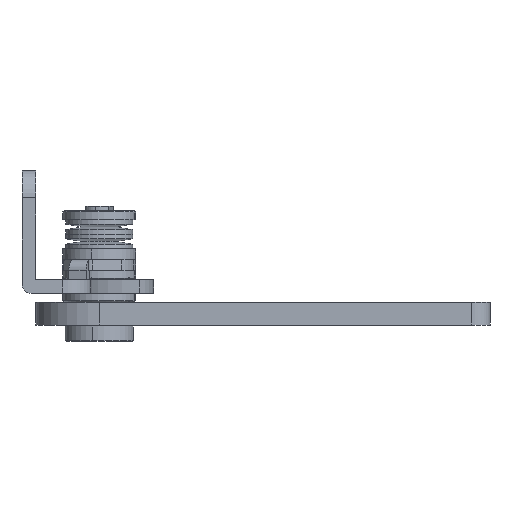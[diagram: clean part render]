
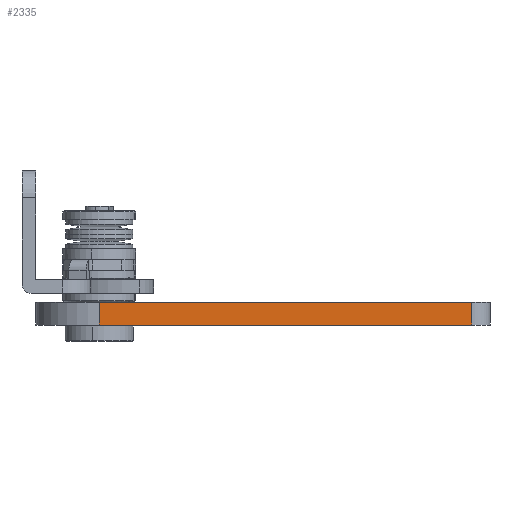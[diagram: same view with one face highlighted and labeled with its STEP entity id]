
A CAD part, left-side view. The second image highlights one B-rep face of the part: STEP entity #2335.
In plain terms, the highlighted planar face has unit normal (-1, 0, 0) as drawn and (1, 0, 0) by its records, which use the part's own axes.
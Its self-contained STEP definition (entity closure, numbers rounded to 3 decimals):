
#341 = ORIENTED_EDGE ( 'NONE', *, *, #7293, .T. ) ;
#583 = PLANE ( 'NONE',  #7472 ) ;
#1395 = LINE ( 'NONE', #14132, #14620 ) ;
#1822 = VERTEX_POINT ( 'NONE', #7103 ) ;
#1832 = DIRECTION ( 'NONE',  ( -1., 0., 0. ) ) ;
#2335 = ADVANCED_FACE ( 'NONE', ( #12972 ), #583, .F. ) ;
#3076 = DIRECTION ( 'NONE',  ( 0., 0., -1. ) ) ;
#3279 = VECTOR ( 'NONE', #9722, 1000. ) ;
#4618 = CARTESIAN_POINT ( 'NONE',  ( 14., 2., 2.5 ) ) ;
#5116 = CARTESIAN_POINT ( 'NONE',  ( 14., 2., 0. ) ) ;
#5676 = EDGE_CURVE ( 'NONE', #16001, #1822, #6314, .T. ) ;
#5856 = VECTOR ( 'NONE', #7081, 1000. ) ;
#6150 = ORIENTED_EDGE ( 'NONE', *, *, #9887, .F. ) ;
#6314 = LINE ( 'NONE', #4618, #3279 ) ;
#7081 = DIRECTION ( 'NONE',  ( 0., -1., 0. ) ) ;
#7103 = CARTESIAN_POINT ( 'NONE',  ( 14., 2., 2.5 ) ) ;
#7293 = EDGE_CURVE ( 'NONE', #16144, #1822, #15661, .T. ) ;
#7472 = AXIS2_PLACEMENT_3D ( 'NONE', #12051, #1832, #10827 ) ;
#7998 = VECTOR ( 'NONE', #3076, 1000. ) ;
#8696 = EDGE_CURVE ( 'NONE', #9391, #16001, #1395, .T. ) ;
#9021 = DIRECTION ( 'NONE',  ( 0., -1., 0. ) ) ;
#9391 = VERTEX_POINT ( 'NONE', #11954 ) ;
#9405 = ORIENTED_EDGE ( 'NONE', *, *, #8696, .F. ) ;
#9722 = DIRECTION ( 'NONE',  ( 0., 0., 1. ) ) ;
#9887 = EDGE_CURVE ( 'NONE', #16144, #9391, #14386, .T. ) ;
#10773 = CARTESIAN_POINT ( 'NONE',  ( 14., 43., 2.5 ) ) ;
#10827 = DIRECTION ( 'NONE',  ( 0., -1., 0. ) ) ;
#11954 = CARTESIAN_POINT ( 'NONE',  ( 14., 43., 0. ) ) ;
#12051 = CARTESIAN_POINT ( 'NONE',  ( 14., 50., 2.5 ) ) ;
#12242 = CARTESIAN_POINT ( 'NONE',  ( 14., 0., 2.5 ) ) ;
#12537 = EDGE_LOOP ( 'NONE', ( #13149, #9405, #6150, #341 ) ) ;
#12972 = FACE_OUTER_BOUND ( 'NONE', #12537, .T. ) ;
#13098 = CARTESIAN_POINT ( 'NONE',  ( 14., 43., 2.5 ) ) ;
#13149 = ORIENTED_EDGE ( 'NONE', *, *, #5676, .F. ) ;
#14132 = CARTESIAN_POINT ( 'NONE',  ( 14., 50., 0. ) ) ;
#14386 = LINE ( 'NONE', #10773, #7998 ) ;
#14620 = VECTOR ( 'NONE', #9021, 1000. ) ;
#15661 = LINE ( 'NONE', #12242, #5856 ) ;
#16001 = VERTEX_POINT ( 'NONE', #5116 ) ;
#16144 = VERTEX_POINT ( 'NONE', #13098 ) ;
